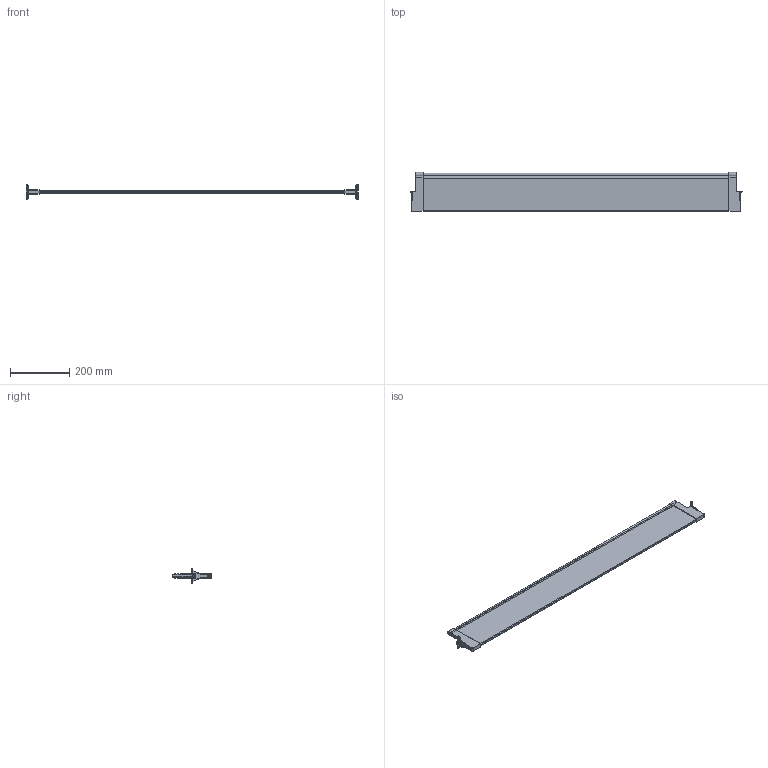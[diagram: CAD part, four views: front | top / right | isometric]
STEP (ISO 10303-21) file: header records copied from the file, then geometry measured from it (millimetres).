
FILE_DESCRIPTION (( 'STEP AP214' ), '1' );
FILE_NAME ('Nova-Pro P622 Querteiler H90Nova PRO Querteiler_H90_KAB 1200_16.step', '2009-11-06T06:59:44', ( 'Waldinger Reinhard' ), ( 'Grass GmbH' ), 'SwSTEP 2.0', 'SolidWorks 2009', '' );
FILE_SCHEMA (( 'AUTOMOTIVE_DESIGN' ));
Length unit declared in the file: millimetre
Products named in the file (1): Nova-Pro P622 Querteiler H90Nova PRO Querteiler_H90_KAB 1200_16
Bounding box: 1118.1 x 132 x 49.97 mm (x, y, z)
Volume: 1157872.3 mm3; surface area: 302391 mm2
Topology: 1 solids, 1 shells, 248 faces, 578 edges, 334 vertices
Faces by surface type: cylinder 107, bspline 64, plane 51, torus 12, sphere 12, cone 2
Entity records: 11002 total; most frequent: CARTESIAN_POINT 5879, ORIENTED_EDGE 1148, DIRECTION 966, EDGE_CURVE 574, AXIS2_PLACEMENT_3D 369, VERTEX_POINT 334, EDGE_LOOP 254, ADVANCED_FACE 248
